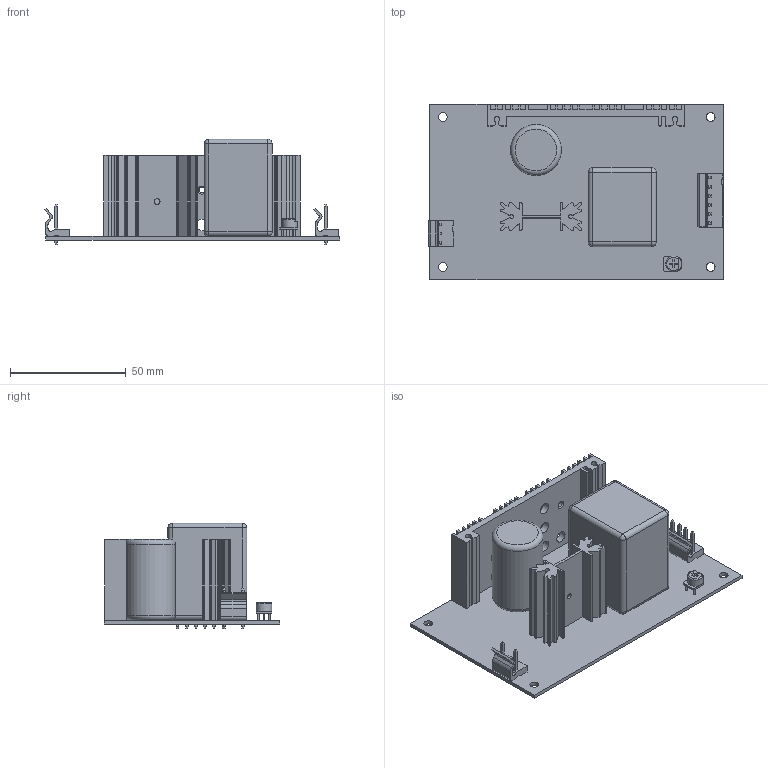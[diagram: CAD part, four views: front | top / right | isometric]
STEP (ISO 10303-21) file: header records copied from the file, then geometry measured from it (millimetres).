
FILE_DESCRIPTION((''),'2;1');
FILE_NAME('W:\mechanical\機構工程圖\3D圖檔\3D Outline-2020\已完成待審核\MPS,MPD,MPT-65.stp','2020-06-29T18:37:37',('shirley'),(''),'Autodesk Inventor 2010','Autodesk Inventor 2010','');
FILE_SCHEMA(('AUTOMOTIVE_DESIGN { 1 0 10303 214 1 1 1 1 }'));
Length unit declared in the file: millimetre
Products named in the file (9): MPD-65; PCB; 5273-03N2; 5273-06; VR-1; HS1; C5; HS2; T1
Assembly tree (8 placements, depth 2):
  MPD-65
    PCB
    5273-03N2
    5273-06
    VR-1
    HS1
    C5
    HS2
    T1
Bounding box: 127.65 x 76 x 45.6 mm (x, y, z)
Volume: 89931.9 mm3; surface area: 49993.6 mm2
Topology: 8 solids, 8 shells, 504 faces, 1563 edges, 1318 vertices
Faces by surface type: plane 406, cylinder 85, sphere 8, torus 5
Full cylindrical faces by diameter (mm): 0.8 x3, 2.5 x3, 3.8 x4, 5 x7, 6.747 x1, 22 x1
Entity records: 17690 total; most frequent: CARTESIAN_POINT 3173, DIRECTION 2786, ORIENTED_EDGE 2582, VECTOR 1308, LINE 1308, EDGE_CURVE 1291, VERTEX_POINT 844, AXIS2_PLACEMENT_3D 739
